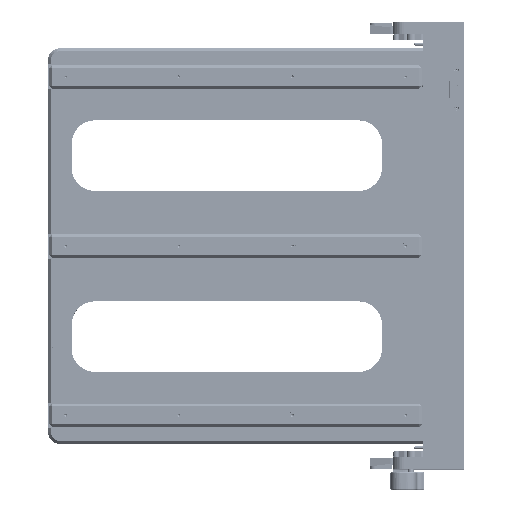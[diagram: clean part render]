
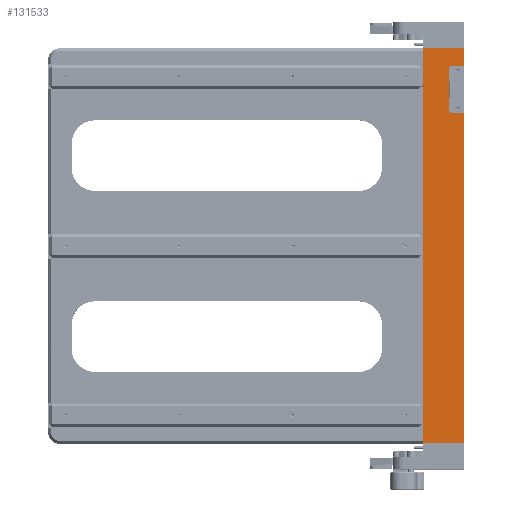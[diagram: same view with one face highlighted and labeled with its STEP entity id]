
A CAD part, top view. The second image highlights one B-rep face of the part: STEP entity #131533.
In plain terms, the highlighted planar face has unit normal (0, 0, 1).
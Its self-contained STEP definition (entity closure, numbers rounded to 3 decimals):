
#3521=CIRCLE('',#138190,0.125);
#3525=CIRCLE('',#138199,0.125);
#10498=PLANE('',#138324);
#15548=FACE_OUTER_BOUND('',#23725,.T.);
#23725=EDGE_LOOP('',(#101578,#101579,#101580,#101581,#101582,#101583,#101584,
#101585,#101586,#101587));
#35713=LINE('',#210014,#44480);
#35718=LINE('',#210024,#44485);
#35725=LINE('',#210087,#44492);
#35733=LINE('',#210105,#44500);
#35736=LINE('',#210114,#44503);
#35748=LINE('',#210315,#44515);
#35750=LINE('',#210318,#44517);
#35751=LINE('',#210319,#44518);
#44480=VECTOR('',#153481,0.75);
#44485=VECTOR('',#153488,14.05);
#44492=VECTOR('',#153563,0.515);
#44500=VECTOR('',#153581,1.75);
#44503=VECTOR('',#153592,0.515);
#44515=VECTOR('',#153850,16.8);
#44517=VECTOR('',#153854,1.723);
#44518=VECTOR('',#153855,1.723);
#59589=VERTEX_POINT('',#210011);
#59590=VERTEX_POINT('',#210013);
#59593=VERTEX_POINT('',#210021);
#59594=VERTEX_POINT('',#210023);
#59615=VERTEX_POINT('',#210081);
#59616=VERTEX_POINT('',#210083);
#59621=VERTEX_POINT('',#210103);
#59623=VERTEX_POINT('',#210109);
#59688=VERTEX_POINT('',#210312);
#59689=VERTEX_POINT('',#210314);
#75099=EDGE_CURVE('',#59589,#59590,#35713,.T.);
#75104=EDGE_CURVE('',#59593,#59594,#35718,.T.);
#75127=EDGE_CURVE('',#59615,#59616,#3521,.T.);
#75129=EDGE_CURVE('',#59593,#59616,#35725,.T.);
#75139=EDGE_CURVE('',#59615,#59621,#35733,.T.);
#75142=EDGE_CURVE('',#59623,#59621,#3525,.T.);
#75144=EDGE_CURVE('',#59623,#59590,#35736,.T.);
#75214=EDGE_CURVE('',#59689,#59688,#35748,.T.);
#75216=EDGE_CURVE('',#59689,#59589,#35750,.T.);
#75217=EDGE_CURVE('',#59688,#59594,#35751,.T.);
#101578=ORIENTED_EDGE('',*,*,#75144,.T.);
#101579=ORIENTED_EDGE('',*,*,#75099,.F.);
#101580=ORIENTED_EDGE('',*,*,#75216,.F.);
#101581=ORIENTED_EDGE('',*,*,#75214,.T.);
#101582=ORIENTED_EDGE('',*,*,#75217,.T.);
#101583=ORIENTED_EDGE('',*,*,#75104,.F.);
#101584=ORIENTED_EDGE('',*,*,#75129,.T.);
#101585=ORIENTED_EDGE('',*,*,#75127,.F.);
#101586=ORIENTED_EDGE('',*,*,#75139,.T.);
#101587=ORIENTED_EDGE('',*,*,#75142,.F.);
#131533=ADVANCED_FACE('',(#15548),#10498,.T.);
#138190=AXIS2_PLACEMENT_3D('',#210084,#153558,#153559);
#138199=AXIS2_PLACEMENT_3D('',#210111,#153587,#153588);
#138324=AXIS2_PLACEMENT_3D('',#210317,#153852,#153853);
#153481=DIRECTION('',(0.,-1.,0.));
#153488=DIRECTION('',(0.,-1.,0.));
#153558=DIRECTION('center_axis',(0.,0.,
1.));
#153559=DIRECTION('ref_axis',(-0.707,-0.707,0.));
#153563=DIRECTION('',(-1.,0.,0.));
#153581=DIRECTION('',(0.,1.,0.));
#153587=DIRECTION('center_axis',(0.,0.,
1.));
#153588=DIRECTION('ref_axis',(-0.707,0.707,0.));
#153592=DIRECTION('',(1.,0.,0.));
#153850=DIRECTION('',(0.,-1.,0.));
#153852=DIRECTION('center_axis',(0.,0.,
1.));
#153853=DIRECTION('ref_axis',(0.,1.,0.));
#153854=DIRECTION('',(1.,0.,0.));
#153855=DIRECTION('',(1.,0.,0.));
#210011=CARTESIAN_POINT('',(3.028,17.9,12.25));
#210013=CARTESIAN_POINT('',(3.028,17.15,12.25));
#210014=CARTESIAN_POINT('',(3.028,17.9,12.25));
#210021=CARTESIAN_POINT('',(3.028,15.15,12.25));
#210023=CARTESIAN_POINT('',(3.028,1.1,12.25));
#210024=CARTESIAN_POINT('',(3.028,17.9,12.25));
#210081=CARTESIAN_POINT('',(2.388,15.275,12.25));
#210083=CARTESIAN_POINT('',(2.513,15.15,12.25));
#210084=CARTESIAN_POINT('Origin',(2.513,15.275,12.25));
#210087=CARTESIAN_POINT('',(1.847,15.15,12.25));
#210103=CARTESIAN_POINT('',(2.388,17.025,12.25));
#210105=CARTESIAN_POINT('',(2.388,17.525,12.25));
#210109=CARTESIAN_POINT('',(2.513,17.15,12.25));
#210111=CARTESIAN_POINT('Origin',(2.513,17.025,12.25));
#210114=CARTESIAN_POINT('',(2.167,17.15,12.25));
#210312=CARTESIAN_POINT('',(1.305,1.1,12.25));
#210314=CARTESIAN_POINT('',(1.305,17.9,12.25));
#210315=CARTESIAN_POINT('',(1.305,17.9,12.25));
#210317=CARTESIAN_POINT('Origin',(1.305,17.9,12.25));
#210318=CARTESIAN_POINT('',(1.305,17.9,12.25));
#210319=CARTESIAN_POINT('',(1.305,1.1,12.25));
